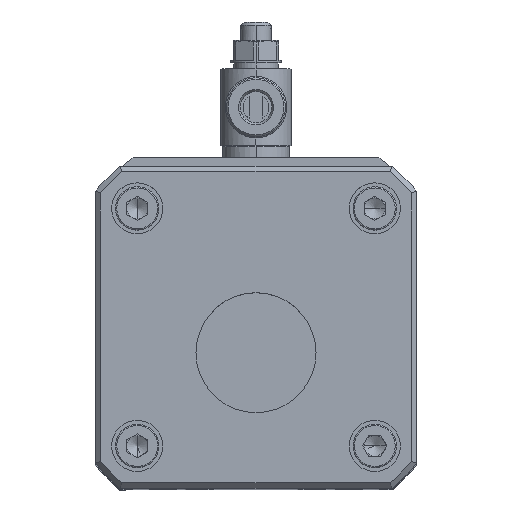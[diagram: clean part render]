
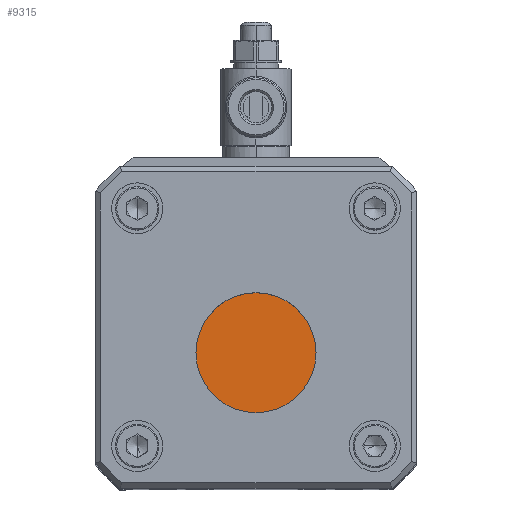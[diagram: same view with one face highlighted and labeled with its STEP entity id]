
A CAD part, top view. The second image highlights one B-rep face of the part: STEP entity #9315.
In plain terms, the highlighted planar face has unit normal (0, 0, 1).
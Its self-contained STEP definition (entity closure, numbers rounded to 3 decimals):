
#54 = EDGE_CURVE ( 'NONE', #11485, #553, #6308, .T. ) ;
#553 = VERTEX_POINT ( 'NONE', #4672 ) ;
#910 = ORIENTED_EDGE ( 'NONE', *, *, #54, .T. ) ;
#1267 = DIRECTION ( 'NONE',  ( 1., 0., 0. ) ) ;
#2223 = AXIS2_PLACEMENT_3D ( 'NONE', #9451, #13825, #15376 ) ;
#3692 = DIRECTION ( 'NONE',  ( 0., 0., 1. ) ) ;
#4672 = CARTESIAN_POINT ( 'NONE',  ( 11.75, -231., 140. ) ) ;
#5064 = ORIENTED_EDGE ( 'NONE', *, *, #7138, .T. ) ;
#6308 = CIRCLE ( 'NONE', #11796, 11.75 ) ;
#6607 = AXIS2_PLACEMENT_3D ( 'NONE', #13072, #14593, #1267 ) ;
#6932 = EDGE_LOOP ( 'NONE', ( #5064, #910 ) ) ;
#7138 = EDGE_CURVE ( 'NONE', #553, #11485, #13581, .T. ) ;
#8238 = CARTESIAN_POINT ( 'NONE',  ( -11.75, -231., 140. ) ) ;
#8585 = FACE_OUTER_BOUND ( 'NONE', #6932, .T. ) ;
#9315 = ADVANCED_FACE ( 'NONE', ( #8585 ), #16843, .T. ) ;
#9451 = CARTESIAN_POINT ( 'NONE',  ( -30.4, -212.2, 140. ) ) ;
#9871 = DIRECTION ( 'NONE',  ( 1., 0., 0. ) ) ;
#11485 = VERTEX_POINT ( 'NONE', #8238 ) ;
#11796 = AXIS2_PLACEMENT_3D ( 'NONE', #18513, #3692, #9871 ) ;
#13072 = CARTESIAN_POINT ( 'NONE',  ( 0., -231., 140. ) ) ;
#13581 = CIRCLE ( 'NONE', #6607, 11.75 ) ;
#13825 = DIRECTION ( 'NONE',  ( 0., 0., 1. ) ) ;
#14593 = DIRECTION ( 'NONE',  ( 0., 0., 1. ) ) ;
#15376 = DIRECTION ( 'NONE',  ( 1., 0., 0. ) ) ;
#16843 = PLANE ( 'NONE',  #2223 ) ;
#18513 = CARTESIAN_POINT ( 'NONE',  ( 0., -231., 140. ) ) ;
